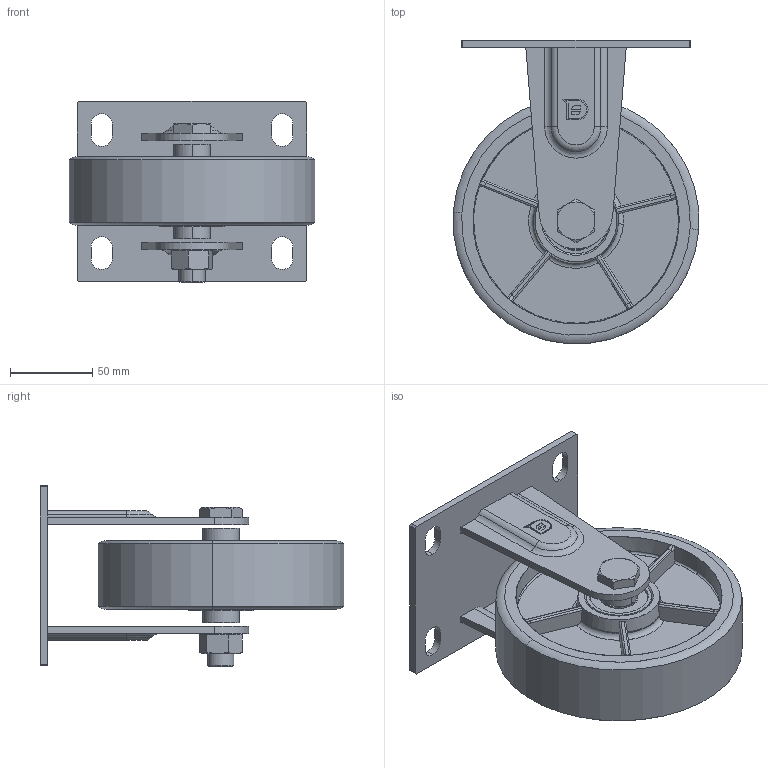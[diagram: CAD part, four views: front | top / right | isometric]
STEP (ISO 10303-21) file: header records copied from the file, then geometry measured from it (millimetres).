
FILE_DESCRIPTION (( 'STEP AP214' ), '1' );
FILE_NAME ('4111606001003-白鐵固定PU輪.STEP', '2025-10-16T06:03:37', ( '' ), ( '' ), 'SwSTEP 2.0', 'SolidWorks 2019', '' );
FILE_SCHEMA (( 'AUTOMOTIVE_DESIGN' ));
Length unit declared in the file: metre
Products named in the file (1): 4111606001003-白鐵固定PU輪
Bounding box: 149.64 x 184.82 x 110.5 mm (x, y, z)
Surface area: 188046.3 mm2 (no closed solid volume)
Topology: 0 solids, 16 shells, 322 faces, 1055 edges, 725 vertices
Faces by surface type: plane 135, cylinder 74, torus 56, cone 41, bspline 16
Entity records: 16934 total; most frequent: CARTESIAN_POINT 4467, ORIENTED_EDGE 1820, DIRECTION 1800, EDGE_CURVE 1055, VERTEX_POINT 725, AXIS2_PLACEMENT_3D 714, CIRCLE 407, VECTOR 372
